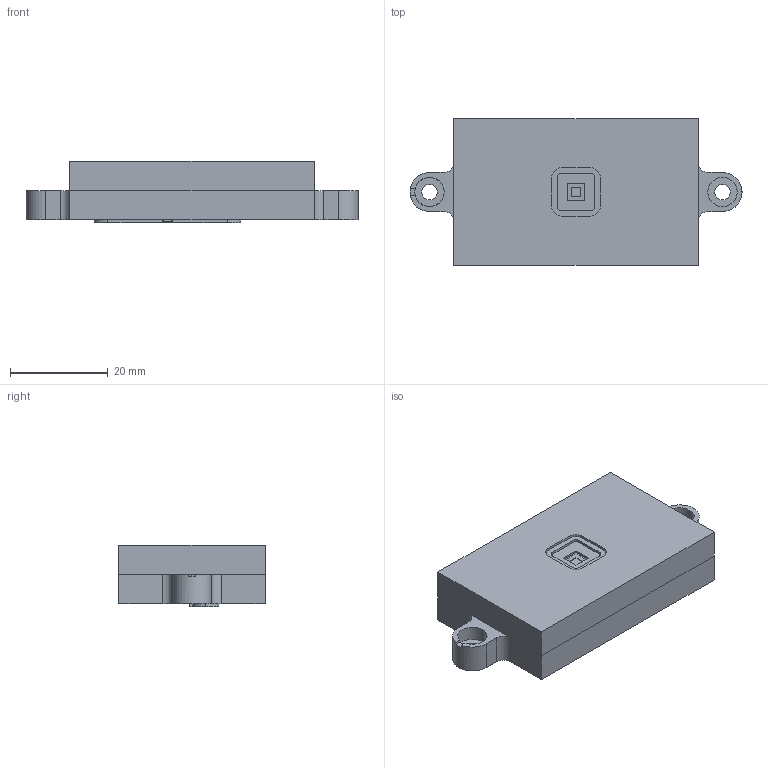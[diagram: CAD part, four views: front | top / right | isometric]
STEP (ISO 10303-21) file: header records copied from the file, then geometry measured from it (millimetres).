
FILE_DESCRIPTION(/* description */ ('START RECORD GO HERE. '),/* implementation_level */ '2;1');
FILE_NAME(/* name */ 'C:\Users\SMT_ASUS\Documents\14. SSOCD60\Mecánica\Cuatro cuadrantes\SSOC-D60 Assembly.stp',/* time_stamp */ '2018-09-27T08:25:24+02:00',/* author */ ('SMT_ASUS'),/* organization */ ('Pedro-SMT-PC'),/* preprocessor_version */ 'ST-DEVELOPER v16.5',/* originating_system */ 'Autodesk Inventor 2017',/* authorisation */ '');
FILE_SCHEMA (('AUTOMOTIVE_DESIGN { 1 0 10303 214 3 1 1 }'));
Products named in the file (1): Ensamblaje
Bounding box: 68 x 30 x 12.61 mm (x, y, z)
Surface area: 13882.9 mm2 (no closed solid volume)
Topology: 0 solids, 2206 shells, 2206 faces, 11101 edges, 10969 vertices
Faces by surface type: plane 1139, cylinder 788, bspline 155, sphere 80, cone 40, torus 4
Entity records: 124934 total; most frequent: CARTESIAN_POINT 38105, DIRECTION 15734, EDGE_CURVE 11009, ORIENTED_EDGE 11009, VERTEX_POINT 10969, LINE 6766, VECTOR 6766, AXIS2_PLACEMENT_3D 4484
